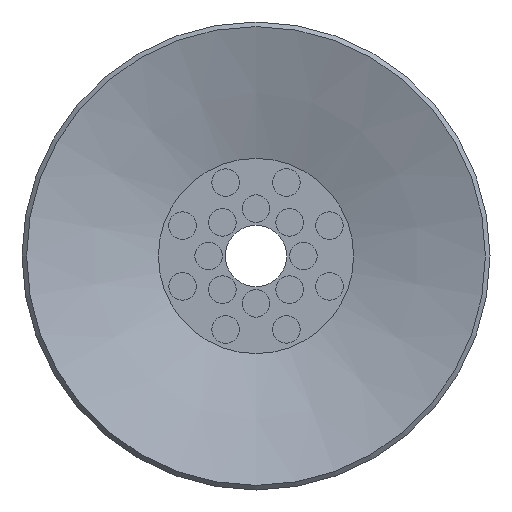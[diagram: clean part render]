
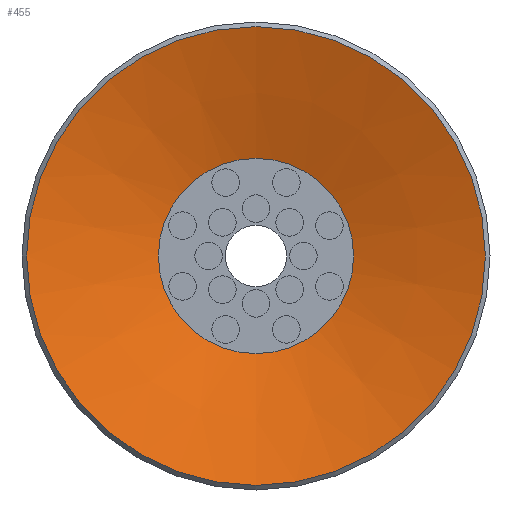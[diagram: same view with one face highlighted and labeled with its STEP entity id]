
A CAD part, front view. The second image highlights one B-rep face of the part: STEP entity #455.
In plain terms, the highlighted conical face has half-angle 72 degrees and reference radius 7.5 mm.
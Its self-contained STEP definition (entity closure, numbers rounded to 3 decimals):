
#455=ADVANCED_FACE('',(#691,#692),#693,.F.);
#691=FACE_BOUND('',#1033,.T.);
#692=FACE_OUTER_BOUND('',#1034,.T.);
#693=CONICAL_SURFACE('',#1035,7.5,1.257);
#1033=EDGE_LOOP('',(#1582));
#1034=EDGE_LOOP('',(#1583));
#1035=AXIS2_PLACEMENT_3D('',#1584,#1585,#1586);
#1582=ORIENTED_EDGE('',*,*,#2125,.T.);
#1583=ORIENTED_EDGE('',*,*,#2131,.F.);
#1584=CARTESIAN_POINT('',(0.0,0.,0.));
#1585=DIRECTION('',(0.0,0.,-1.0));
#1586=DIRECTION('',(0.0,1.0,0.));
#2125=EDGE_CURVE('',#2412,#2412,#2413,.T.);
#2131=EDGE_CURVE('',#2424,#2424,#2425,.T.);
#2412=VERTEX_POINT('',#3040);
#2413=CIRCLE('',#3041,3.191);
#2424=VERTEX_POINT('',#3052);
#2425=CIRCLE('',#3053,7.5);
#3040=CARTESIAN_POINT('',(0.0,-3.191,1.4));
#3041=AXIS2_PLACEMENT_3D('',#3493,#3494,#3495);
#3052=CARTESIAN_POINT('',(0.0,-7.5,0.));
#3053=AXIS2_PLACEMENT_3D('',#3511,#3512,#3513);
#3493=CARTESIAN_POINT('',(0.0,0.,1.4));
#3494=DIRECTION('',(0.0,0.,1.0));
#3495=DIRECTION('',(0.0,-1.0,0.));
#3511=CARTESIAN_POINT('',(0.0,0.,0.));
#3512=DIRECTION('',(0.0,0.,1.0));
#3513=DIRECTION('',(0.0,-1.0,0.));
